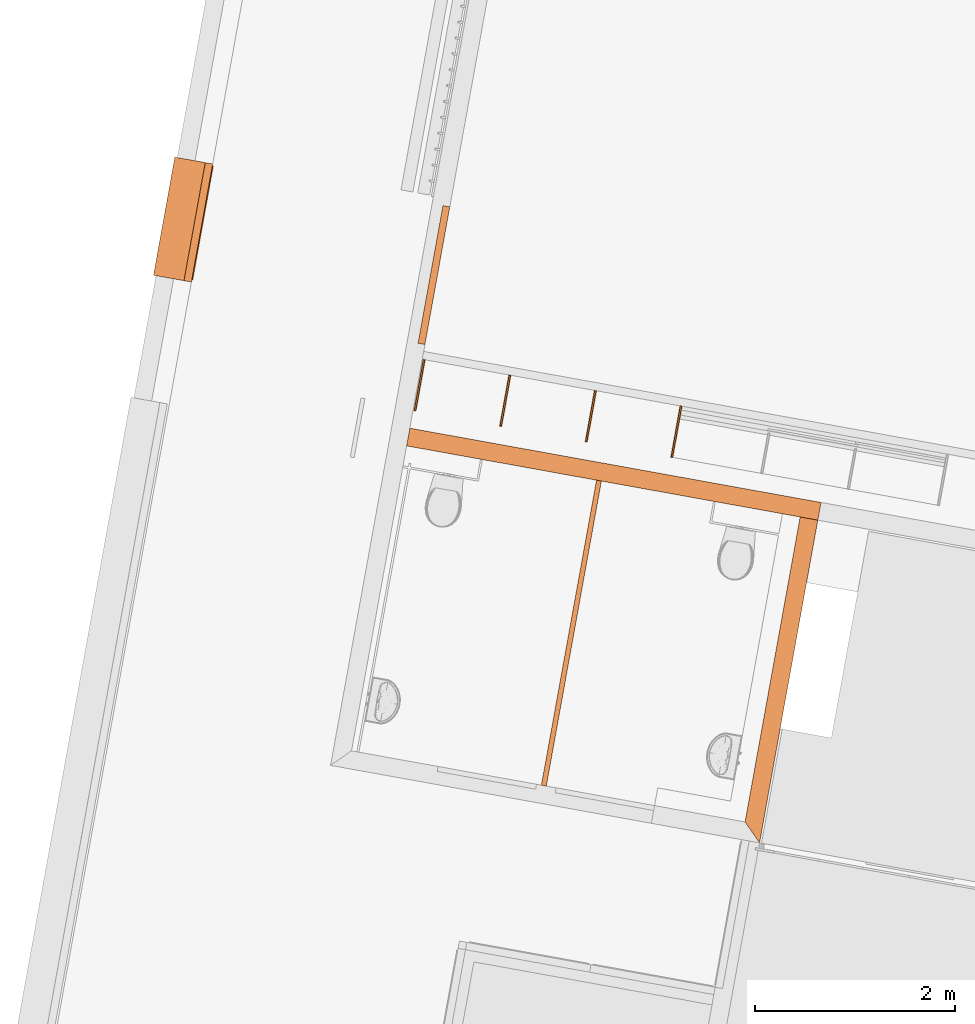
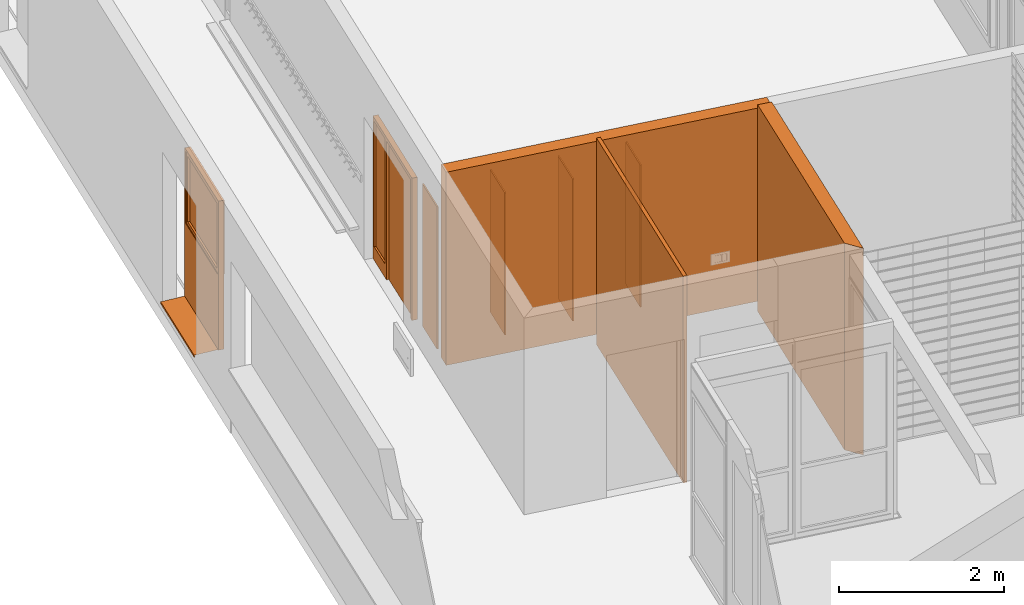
# One storey, part 16 of 52: 9 proxies.
"""IFC2X3 building model written with IfcOpenShell, lengths in metres."""

import ifcopenshell
import ifcopenshell.guid

model = None  # the IFC model being written
_history = None  # IfcOwnerHistory: only IFC2X3 demands one
_inside = {}  # id of a spatial element -> (the spatial element, [elements in it])
_under = {}  # id of a project, library or spatial element -> (it, [spatial elements below it])
_declared = {}  # id of a project -> (the project, [libraries it declares])
_typed = {}  # id of a type object -> (the type object, [elements of that type])
_made_of = {}  # id of a material, layer set ... -> (it, [elements and type objects made of it])


def new_model(schema):
    """Start an empty IFC model of exactly this schema.

    Asked for "IFC4X3", IfcOpenShell would pick the latest addendum, in which some entities
    have other attributes; the version numbers below select the first issue.
    IFC2X3 requires an IfcOwnerHistory on every rooted entity: one is made here for all.
    """
    global model, _history
    if schema == "IFC4X3":
        model = ifcopenshell.file(schema_version=(4, 3, 0, 0))
    else:
        model = ifcopenshell.file(schema=schema)
    _inside.clear()
    _under.clear()
    _declared.clear()
    _typed.clear()
    _made_of.clear()
    _history = None
    if model.schema == "IFC2X3":
        org = make("IfcOrganization", Name="unknown")
        user = make(
            "IfcPersonAndOrganization",
            ThePerson=make("IfcPerson", FamilyName="unknown"),
            TheOrganization=org,
        )
        app = make(
            "IfcApplication",
            ApplicationDeveloper=org,
            Version="unknown",
            ApplicationFullName="unknown",
            ApplicationIdentifier="unknown",
        )
        _history = make(
            "IfcOwnerHistory",
            OwningUser=user,
            OwningApplication=app,
            ChangeAction="ADDED",
            CreationDate=0,
        )
    return model


def make(cls, **values):
    """One entity of the class cls with the attributes given. An attribute that is None is left unset."""
    return model.create_entity(
        cls, **{name: value for name, value in values.items() if value is not None}
    )


def entity(cls, *values):
    """Any entity or typed value of the class cls, its attributes in the order of the schema. None: left unset."""
    e = model.create_entity(cls)
    for i, value in enumerate(values):
        if value is not None:
            e[i] = value
    return e


def rooted(cls, **values):
    """An entity with a GlobalId (a new one), such as an element, a storey or a relation."""
    return make(cls, GlobalId=ifcopenshell.guid.new(), OwnerHistory=_history, **values)


def si_unit(unit_type, name, prefix=None):
    """IfcSIUnit, for example si_unit("LENGTHUNIT", "METRE", prefix="MILLI")."""
    return make("IfcSIUnit", UnitType=unit_type, Prefix=prefix, Name=name)


def converted_unit(unit_type, name, factor, base, dimensions=None, offset=None):
    """IfcConversionBasedUnit, such as the inch: factor (a typed value) times the base unit."""
    return make(
        "IfcConversionBasedUnit"
        if offset is None
        else "IfcConversionBasedUnitWithOffset",
        ConversionOffset=offset,
        Dimensions=None
        if dimensions is None
        else entity("IfcDimensionalExponents", *dimensions),
        UnitType=unit_type,
        Name=name,
        ConversionFactor=make(
            "IfcMeasureWithUnit", ValueComponent=factor, UnitComponent=base
        ),
    )


def derived_unit(unit_type, elements):
    """IfcDerivedUnit: a product of units, each with its exponent."""
    return make(
        "IfcDerivedUnit",
        Elements=[
            make("IfcDerivedUnitElement", Unit=unit, Exponent=power)
            for unit, power in elements
        ],
        UnitType=unit_type,
    )


def money_unit(currency):
    """IfcMonetaryUnit."""
    return make("IfcMonetaryUnit", Currency=currency)


def assignment(units):
    """IfcUnitAssignment: the units of a project."""
    return None if units is None else make("IfcUnitAssignment", Units=units)


def point(xyz):
    """IfcCartesianPoint."""
    return None if xyz is None else make("IfcCartesianPoint", Coordinates=xyz)


def direction(xyz):
    """IfcDirection."""
    return None if xyz is None else make("IfcDirection", DirectionRatios=xyz)


def frame(location, z_axis=None, x_axis=None):
    """IfcAxis2Placement3D, a coordinate frame: its origin and axes. An axis left out is left unset."""
    return make(
        "IfcAxis2Placement3D",
        Location=point(location),
        Axis=direction(z_axis),
        RefDirection=direction(x_axis),
    )


def origin_with_axes():
    """The frame at (0, 0, 0) with the z axis (0, 0, 1) and the x axis (1, 0, 0) written out."""
    return frame((0.0, 0.0, 0.0), z_axis=(0.0, 0.0, 1.0), x_axis=(1.0, 0.0, 0.0))


def place(relative_to, where):
    """IfcLocalPlacement: puts the frame where relative to a parent placement (None: the world)."""
    return make(
        "IfcLocalPlacement", PlacementRelTo=relative_to, RelativePlacement=where
    )


def context(
    kind, dimensions, precision=None, world=None, true_north=None, identifier=None
):
    """IfcGeometricRepresentationContext, for example the 3D "Model" context."""
    return make(
        "IfcGeometricRepresentationContext",
        ContextIdentifier=identifier,
        ContextType=kind,
        CoordinateSpaceDimension=dimensions,
        Precision=precision,
        WorldCoordinateSystem=world,
        TrueNorth=true_north,
    )


def subcontext(parent, identifier, kind, view, scale=None):
    """IfcGeometricRepresentationSubContext, for example "Body" below "Model"."""
    return make(
        "IfcGeometricRepresentationSubContext",
        ContextIdentifier=identifier,
        ContextType=kind,
        ParentContext=parent,
        TargetScale=scale,
        TargetView=view,
    )


def project(units=None, contexts=None):
    """IfcProject with its units and contexts."""
    return rooted(
        "IfcProject",
        Name="project",
        RepresentationContexts=contexts,
        UnitsInContext=assignment(units),
    )


def spatial(cls, under=None, at=None, **own):
    """A site, building, storey or space (cls), placed at a placement, below another one or the project."""
    s = rooted(cls, ObjectPlacement=at, **own)
    if under is not None:
        _under.setdefault(under.id(), (under, []))[1].append(s)
    return s


def polyline(points):
    """IfcPolyline through the points."""
    return make("IfcPolyline", Points=[point(p) for p in points])


def outline(outer, holes=None, kind="AREA"):
    """IfcArbitraryClosedProfileDef: a profile drawn as a closed curve; with holes, ...WithVoids."""
    if holes is None:
        return make("IfcArbitraryClosedProfileDef", ProfileType=kind, OuterCurve=outer)
    return make(
        "IfcArbitraryProfileDefWithVoids",
        ProfileType=kind,
        OuterCurve=outer,
        InnerCurves=holes,
    )


def extrude(swept, where, along, depth):
    """IfcExtrudedAreaSolid: the profile swept, set in the frame where, extruded along a direction by depth."""
    return make(
        "IfcExtrudedAreaSolid",
        SweptArea=swept,
        Position=where,
        ExtrudedDirection=direction(along),
        Depth=depth,
    )


def faces_of(points, faces, orient=None, outer=None):
    """IfcFace entities. A face is a list of loops; a loop is a list of indices into points, from 0.

    orient and outer hold one flag for each loop. By default every Orientation is true, the
    first loop of a face is its IfcFaceOuterBound and the others are IfcFaceBound.
    """
    made = []
    for i, loops in enumerate(faces):
        bounds = []
        for j, loop in enumerate(loops):
            is_outer = j == 0 if outer is None else outer[i][j]
            bounds.append(
                make(
                    "IfcFaceOuterBound" if is_outer else "IfcFaceBound",
                    Bound=make("IfcPolyLoop", Polygon=[points[k] for k in loop]),
                    Orientation=True if orient is None else orient[i][j],
                )
            )
        made.append(make("IfcFace", Bounds=bounds))
    return made


def open_shell(faces, orient=None, outer=None):
    """The faces of one IfcOpenShell. surface_model builds it on its shared points."""
    return ("IfcOpenShell", faces, orient, outer)


def faceted_brep(points, faces, orient=None, outer=None, voids=None):
    """IfcFacetedBrep: a solid bounded by flat faces; with voids (closed shells), ...WithVoids."""
    shared = [point(p) for p in points]
    hull = make("IfcClosedShell", CfsFaces=faces_of(shared, faces, orient, outer))
    if voids is None:
        return make("IfcFacetedBrep", Outer=hull)
    return make(
        "IfcFacetedBrepWithVoids",
        Outer=hull,
        Voids=[
            make(cls, CfsFaces=faces_of(shared, fs, o, b)) for cls, fs, o, b in voids
        ],
    )


def surface_model(cls, points, shells):
    """IfcFaceBasedSurfaceModel or IfcShellBasedSurfaceModel (cls): surfaces that need not close."""
    shared = [point(p) for p in points]
    made = [make(c, CfsFaces=faces_of(shared, fs, o, b)) for c, fs, o, b in shells]
    if cls == "IfcFaceBasedSurfaceModel":
        return make(cls, FbsmFaces=made)
    return make(cls, SbsmBoundary=made)


def shape(context_of_items, identifier, shape_type, items):
    """IfcShapeRepresentation: the items that make up one representation, for example the "Body"."""
    return make(
        "IfcShapeRepresentation",
        ContextOfItems=context_of_items,
        RepresentationIdentifier=identifier,
        RepresentationType=shape_type,
        Items=items,
    )


def source(mapping_origin, context_of_items, identifier, shape_type, items):
    """IfcRepresentationMap: a shape defined once, which mapped items show again and again."""
    return make(
        "IfcRepresentationMap",
        MappingOrigin=mapping_origin,
        MappedRepresentation=shape(context_of_items, identifier, shape_type, items),
    )


def transform(
    local_origin,
    x_axis=None,
    y_axis=None,
    z_axis=None,
    scale=None,
    scale2=None,
    scale3=None,
    uniform=True,
):
    """IfcCartesianTransformationOperator3D, or its non-uniform kind. x_axis, y_axis, z_axis: its Axis1, 2, 3."""
    if uniform:
        return make(
            "IfcCartesianTransformationOperator3D",
            Axis1=direction(x_axis),
            Axis2=direction(y_axis),
            LocalOrigin=point(local_origin),
            Scale=scale,
            Axis3=direction(z_axis),
        )
    return make(
        "IfcCartesianTransformationOperator3DnonUniform",
        Axis1=direction(x_axis),
        Axis2=direction(y_axis),
        LocalOrigin=point(local_origin),
        Scale=scale,
        Axis3=direction(z_axis),
        Scale2=scale2,
        Scale3=scale3,
    )


def mapped(mapping_source, mapping_target):
    """IfcMappedItem: shows the shape of a source again, moved by a transform."""
    return make(
        "IfcMappedItem", MappingSource=mapping_source, MappingTarget=mapping_target
    )


def material(Name=None, Category=None):
    """IfcMaterial."""
    return make("IfcMaterial", Name=Name, Category=Category)


def made_of(thing, what):
    """Note that an element or type object is made of a material, layer set ...; save() writes the relation."""
    if what is not None:
        _made_of.setdefault(what.id(), (what, []))[1].append(thing)
    return thing


def type_object(cls, material=None, **own):
    """A type object (cls), such as IfcWallType, which elements share."""
    return made_of(rooted(cls, **own), material)


def element(
    cls,
    number,
    at=None,
    inside=None,
    cuts=None,
    type_object=None,
    material=None,
    context=None,
    identifier="Body",
    shape_type=None,
    held_by="IfcProductDefinitionShape",
    body=None,
    shapes=None,
    **own,
):
    """One element of the class cls, such as IfcWall. Its Tag is "e" and its number.

    at: its placement. inside: the storey or other place that contains it. cuts: it is an
    opening in that element (IfcRelVoidsElement). A single representation is given by context,
    identifier, shape_type and body (its items); several are given by shapes. held_by: the class
    of the entity that holds the representations. save() writes the other relations.
    """
    e = rooted(cls, Tag="e%d" % number, ObjectPlacement=at, **own)
    if body is not None:
        shapes = [shape(context, identifier, shape_type, body)]
    if shapes is not None:
        e.Representation = make(held_by, Representations=shapes)
    if inside is not None:
        _inside.setdefault(inside.id(), (inside, []))[1].append(e)
    if cuts is not None:
        rooted(
            "IfcRelVoidsElement", RelatingBuildingElement=cuts, RelatedOpeningElement=e
        )
    if type_object is not None:
        _typed.setdefault(type_object.id(), (type_object, []))[1].append(e)
    return made_of(e, material)


def aggregate(whole, parts):
    """IfcRelAggregates: a whole, such as a stair, and the parts it consists of."""
    return rooted("IfcRelAggregates", RelatingObject=whole, RelatedObjects=parts)


def save(model, path):
    """Write the relations noted so far, then the file.

    IfcRelAggregates (storeys below a building ...), IfcRelContainedInSpatialStructure (elements
    in a storey), IfcRelDefinesByType, IfcRelAssociatesMaterial and IfcRelDeclares: one each for
    every whole, place, type object, material and project.
    """
    for whole, parts in _under.values():
        aggregate(whole, parts)
    for where, things in _inside.values():
        rooted(
            "IfcRelContainedInSpatialStructure",
            RelatedElements=things,
            RelatingStructure=where,
        )
    for kind, things in _typed.values():
        rooted("IfcRelDefinesByType", RelatedObjects=things, RelatingType=kind)
    for what, things in _made_of.values():
        rooted("IfcRelAssociatesMaterial", RelatedObjects=things, RelatingMaterial=what)
    for by, libraries in _declared.values():
        rooted("IfcRelDeclares", RelatingContext=by, RelatedDefinitions=libraries)
    model.write(path)


model = new_model("IFC2X3")

# Units and contexts
model_context = context("Model", 3, precision=1e-05, world=origin_with_axes(), true_north=direction((0.0, 1.0)))
body_context = subcontext(model_context, "Body", "Model", "MODEL_VIEW")
ifc_project = project(units=[si_unit("LENGTHUNIT", "METRE"), si_unit("AREAUNIT", "SQUARE_METRE"), si_unit("VOLUMEUNIT", "CUBIC_METRE"), converted_unit("PLANEANGLEUNIT", "DEGREE", entity("IfcPlaneAngleMeasure", 0.0174532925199), si_unit("PLANEANGLEUNIT", "RADIAN"), dimensions=[0, 0, 0, 0, 0, 0, 0]), money_unit("CHF"), converted_unit("TIMEUNIT", "Year", entity("IfcTimeMeasure", 31556926.0), si_unit("TIMEUNIT", "SECOND"), dimensions=[0, 0, 1, 0, 0, 0, 0]), si_unit("MASSUNIT", "GRAM", prefix="KILO"), si_unit("THERMODYNAMICTEMPERATUREUNIT", "DEGREE_CELSIUS"), si_unit("LUMINOUSINTENSITYUNIT", "LUMEN"), si_unit("ENERGYUNIT", "JOULE", prefix="MEGA"), derived_unit("THERMALCONDUCTANCEUNIT", [(si_unit("POWERUNIT", "WATT"), 1), (si_unit("LENGTHUNIT", "METRE"), -1), (si_unit("THERMODYNAMICTEMPERATUREUNIT", "KELVIN"), -1)]), derived_unit("SPECIFICHEATCAPACITYUNIT", [(si_unit("ENERGYUNIT", "JOULE"), 1), (si_unit("MASSUNIT", "GRAM", prefix="KILO"), -1), (si_unit("THERMODYNAMICTEMPERATUREUNIT", "KELVIN"), -1)]), derived_unit("MASSDENSITYUNIT", [(si_unit("MASSUNIT", "GRAM", prefix="KILO"), 1), (si_unit("VOLUMEUNIT", "CUBIC_METRE"), -1)])], contexts=[model_context])

# Site, building, storey
site_placement = place(None, frame((0.0, 0.0, 0.0), z_axis=(0.0, 0.0, 1.0), x_axis=(-0.177771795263, -0.984071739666, 0.0)))
site = spatial("IfcSite", under=ifc_project, at=site_placement, Name="Site", CompositionType="ELEMENT")
building_placement = place(site_placement, origin_with_axes())
building = spatial("IfcBuilding", under=site, at=building_placement, Name="Bâtiment", CompositionType="ELEMENT")
storey_placement = place(building_placement, frame((0.0, 0.0, 3.2), z_axis=(0.0, 0.0, 1.0), x_axis=(1.0, 0.0, 0.0)))
storey = spatial("IfcBuildingStorey", under=building, at=storey_placement, Name="R+1", CompositionType="ELEMENT", Elevation=3.2)

# Proxies
ifc_material_1 = material(Name="_BA banché RAL9007")
building_element_proxy_type_1 = type_object("IfcBuildingElementProxyType", Name="_BA banché RAL9007 180", PredefinedType="NOTDEFINED")
proxy_1_placement = place(storey_placement, frame((138.014841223, -156.627151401, 0.0), z_axis=(0.0, 0.0, 1.0), x_axis=(0.0, 1.0, 0.0)))
element("IfcBuildingElementProxy", 1, at=proxy_1_placement, inside=storey, type_object=building_element_proxy_type_1, material=ifc_material_1, Name="M refend", context=body_context, shape_type="SweptSolid", body=[
    extrude(outline(polyline([(0.18, 0.0), (4.36011604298, 0.0), (4.36011604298, 0.18), (0.18000000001, 0.18), (0.18, 0.0)])), origin_with_axes(), (0.0, 0.0, 1.0), 2.85),
])
ifc_material_2 = material(Name="_panneau mélaminé")
building_element_proxy_type_2 = type_object("IfcBuildingElementProxyType", Name="_panneau mélaminé 19", PredefinedType="NOTDEFINED")
proxy_2_placement = place(storey_placement, frame((137.834841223, -153.816651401, 0.0), z_axis=(0.0, 0.0, 1.0), x_axis=(-1.0, 0.0, 0.0)))
element("IfcBuildingElementProxy", 2, at=proxy_2_placement, inside=storey, type_object=building_element_proxy_type_2, material=ifc_material_2, Name="cloison pl-classe", context=body_context, shape_type="SweptSolid", body=[
    extrude(outline(polyline([(0.18, -0.0095), (0.7, -0.0095), (0.7, 0.0095), (0.18, 0.0095), (0.18, -0.0095)])), origin_with_axes(), (0.0, 0.0, 1.0), 2.1),
])
proxy_3_placement = place(storey_placement, frame((137.834841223, -156.418136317, 0.0), z_axis=(0.0, 0.0, 1.0), x_axis=(-1.0, 0.0, 0.0)))
element("IfcBuildingElementProxy", 3, at=proxy_3_placement, inside=storey, type_object=building_element_proxy_type_2, material=ifc_material_2, Name="cloison pl-classe", context=body_context, shape_type="SweptSolid", body=[
    extrude(outline(polyline([(0.18, 0.0), (0.7, 0.0), (0.7, 0.019), (0.18, 0.019), (0.18, 0.0)])), origin_with_axes(), (0.0, 0.0, 1.0), 2.1),
])
for number, where, z_axis, x_axis, name in (
    (4, (137.654841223, -155.556651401, 0.0), (0.0, 0.0, 1.0), (-1.0, 0.0, 0.0), "cloison pl-classe"),
    (5, (137.654841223, -154.686651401, 0.0), (0.0, 0.0, 1.0), (-1.0, 0.0, 0.0), "cloison pl-classe"),
):
    element("IfcBuildingElementProxy", number, at=place(storey_placement, frame(where, z_axis=z_axis, x_axis=x_axis)), inside=storey, type_object=building_element_proxy_type_2, material=ifc_material_2, Name=name, context=body_context, shape_type="SweptSolid", body=[
        extrude(outline(polyline([(0.0, -0.0095), (0.52, -0.0095), (0.52, 0.0095), (0.0, 0.0095), (0.0, -0.0095)])), origin_with_axes(), (0.0, 0.0, 1.0), 2.1),
    ])
building_element_proxy_type_3 = type_object("IfcBuildingElementProxyType", Name="_M ext 18 +18 360", PredefinedType="NOTDEFINED")
proxy_4_placement = place(storey_placement, frame((138.014841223, -152.267151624, -0.15), z_axis=(0.0, 0.0, 1.0), x_axis=(1.0, 2.02705788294e-07, 0.0)))
element("IfcBuildingElementProxy", 6, at=proxy_4_placement, inside=storey, type_object=building_element_proxy_type_3, material=ifc_material_1, Name="M refend", context=body_context, shape_type="SweptSolid", body=[
    extrude(outline(polyline([(-3.65105847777e-08, -0.18), (3.09999917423, -0.18), (3.27999917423, 0.0), (0.0, 0.0), (-3.65105847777e-08, -0.18)])), origin_with_axes(), (0.0, 0.0, 1.0), 3.05),
])
ifc_material_3 = material(Name="Matériau de construction IFC")
building_element_proxy_type_4 = type_object("IfcBuildingElementProxyType", Name="Porte avec tierce vitrée côté 2 21", PredefinedType="NOTDEFINED")
shared_shape_1 = source(origin_with_axes(), body_context, "Body", "SurfaceModel", [
    faceted_brep([(0.0, 0.18, 0.0), (0.05, 0.18, 0.0), (0.05, 0.11, 0.0), (0.0, 0.11, 0.0), (0.0, 0.18, 2.05), (0.05, 0.18, 2.05), (0.05, 0.18, 0.2), (0.05, 0.11, 0.2), (0.05, 0.11, 2.05), (0.0, 0.11, 2.05)], [[[0, 1, 2, 3]], [[0, 4, 5, 6, 1]], [[1, 6, 7, 2]], [[3, 2, 7, 8, 9]], [[4, 0, 3, 9]], [[5, 4, 9, 8]], [[6, 5, 8, 7]]]),
    faceted_brep([(0.49, 0.14, 0.0), (0.49, 0.14, 2.05), (0.49, 0.11, 2.05), (0.49, 0.11, 0.0), (0.47, 0.14, 2.05), (0.47, 0.14, 0.0), (0.47, 0.18, 2.05), (0.44, 0.18, 2.05), (0.44, 0.11, 2.05), (0.44, 0.11, 0.0), (0.44, 0.11, 0.2), (0.44, 0.18, 0.0), (0.47, 0.18, 0.0), (0.44, 0.18, 0.2)], [[[0, 1, 2, 3]], [[4, 1, 0, 5]], [[4, 6, 7, 8, 2, 1]], [[9, 3, 2, 8, 10]], [[5, 0, 3, 9, 11, 12]], [[6, 4, 5, 12]], [[6, 12, 11, 13, 7]], [[13, 10, 8, 7]], [[11, 9, 10, 13]]]),
    faceted_brep([(0.05, 0.18, 0.2), (0.05, 0.18, 0.0), (0.05, 0.11, 0.0), (0.05, 0.11, 0.2), (0.44, 0.18, 0.2), (0.44, 0.18, 0.0), (0.44, 0.11, 0.0), (0.44, 0.11, 0.2)], [[[0, 1, 2, 3]], [[0, 4, 5, 1]], [[1, 5, 6, 2]], [[3, 2, 6, 7]], [[4, 0, 3, 7]], [[5, 4, 7, 6]]]),
    faceted_brep([(1.37, 0.14, 2.05), (1.35, 0.14, 2.05), (1.35, 0.11, 2.05), (1.4, 0.11, 2.05), (1.4, 0.18, 2.05), (1.37, 0.18, 2.05), (1.37, 0.14, 0.0), (1.35, 0.14, 0.0), (1.35, 0.11, 0.0), (1.4, 0.11, 0.0), (1.4, 0.18, 0.0), (1.37, 0.18, 0.0)], [[[0, 1, 2, 3, 4, 5]], [[1, 0, 6, 7]], [[1, 7, 8, 2]], [[3, 2, 8, 9]], [[4, 3, 9, 10]], [[11, 5, 4, 10]], [[0, 5, 11, 6]], [[6, 11, 10, 9, 8, 7]]]),
    faceted_brep([(0.47, 0.18, 2.07), (0.47, 0.18, 2.05), (0.44, 0.18, 2.05), (0.05, 0.18, 2.05), (0.0, 0.18, 2.05), (0.0, 0.18, 2.1), (1.4, 0.18, 2.1), (1.4, 0.18, 2.05), (1.37, 0.18, 2.05), (1.37, 0.18, 2.07), (0.47, 0.14, 2.07), (0.47, 0.14, 2.05), (1.35, 0.14, 2.05), (1.35, 0.11, 2.05), (0.49, 0.11, 2.05), (0.44, 0.11, 2.05), (0.05, 0.11, 2.05), (0.0, 0.11, 2.05), (0.0, 0.11, 2.1), (1.4, 0.11, 2.1), (1.4, 0.11, 2.05), (1.37, 0.14, 2.05), (1.37, 0.14, 2.07)], [[[0, 1, 2, 3, 4, 5, 6, 7, 8, 9]], [[1, 0, 10, 11]], [[11, 12, 13, 14, 15, 2, 1]], [[2, 15, 16, 3]], [[3, 16, 17, 4]], [[4, 17, 18, 5]], [[5, 18, 19, 6]], [[6, 19, 20, 7]], [[21, 8, 7, 20, 13, 12]], [[9, 8, 21, 22]], [[0, 9, 22, 10]], [[21, 12, 11, 10, 22]], [[13, 20, 19, 18, 17, 16, 15, 14]]]),
    faceted_brep([(1.37, 0.18, 0.0), (1.37, 0.14, 0.0), (0.47, 0.14, 0.0), (0.47, 0.18, 0.0), (1.37, 0.18, 2.07), (1.37, 0.14, 2.07), (0.47, 0.14, 2.07), (0.47, 0.18, 2.07)], [[[0, 1, 2, 3]], [[4, 5, 1, 0]], [[1, 5, 6, 2]], [[3, 2, 6, 7]], [[0, 3, 7, 4]], [[7, 6, 5, 4]]]),
    surface_model("IfcShellBasedSurfaceModel", [(0.05, 0.145, 0.2), (0.05, 0.145, 2.05), (0.44, 0.145, 2.05), (0.44, 0.145, 0.2)], [open_shell([[[0, 1, 2, 3]]])]),
    surface_model("IfcShellBasedSurfaceModel", [(0.05, 0.135, 0.2), (0.44, 0.135, 0.2), (0.44, 0.135, 2.05), (0.05, 0.135, 2.05)], [open_shell([[[0, 1, 2, 3]]])]),
])
proxy_5_placement = place(storey_placement, frame((135.584841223, -156.627151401, 0.0), z_axis=(0.0, 0.0, 1.0), x_axis=(1.0, 0.0, 0.0)))
element("IfcBuildingElementProxy", 7, at=proxy_5_placement, inside=storey, type_object=building_element_proxy_type_4, material=ifc_material_3, Name="16", context=body_context, shape_type="MappedRepresentation", body=[
    mapped(shared_shape_1, transform((0.0, 0.0, 0.0))),
])
ifc_material_4 = material(Name="_Cloison")
building_element_proxy_type_5 = type_object("IfcBuildingElementProxyType", Name="_Cloison 50", PredefinedType="NOTDEFINED")
proxy_6_placement = place(storey_placement, frame((138.014841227, -154.467151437, -0.15), z_axis=(0.0, 0.0, 1.0), x_axis=(1.0, 4.23886328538e-07, 0.0)))
element("IfcBuildingElementProxy", 8, at=proxy_6_placement, inside=storey, type_object=building_element_proxy_type_5, material=ifc_material_4, Name="cloison-WC-R+1", context=body_context, shape_type="SweptSolid", body=[
    extrude(outline(polyline([(-2.52483687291e-08, -0.05), (3.09999960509, -0.05), (3.09999961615, 0.0), (-4.05404421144e-09, 0.0), (-2.52483687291e-08, -0.05)])), origin_with_axes(), (0.0, 0.0, 1.0), 3.05),
])
building_element_proxy_type_6 = type_object("IfcBuildingElementProxyType", Name="Fenêtre variable 21", PredefinedType="NOTDEFINED")
shared_shape_2 = source(origin_with_axes(), body_context, "Body", "SurfaceModel", [
    surface_model("IfcShellBasedSurfaceModel", [(1.2, 0.284, 0.02), (0.0, 0.284, 0.02), (0.0, 0.284, 0.01), (1.2, 0.284, 0.01), (0.0, -0.025, -0.00087719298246), (1.2, -0.025, -0.00087719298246), (0.0, -0.025, -0.0308771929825), (1.2, -0.025, -0.0308771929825), (0.0, -0.0125, -0.0183771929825), (1.2, -0.0125, -0.0183771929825)], [open_shell([[[0, 1, 2, 3]], [[3, 2, 4, 5]], [[5, 4, 6, 7]], [[7, 6, 8, 9]]])]),
    faceted_brep([(1.18, 0.36, 2.169), (1.18, 0.295, 2.169), (1.17, 0.295, 2.169), (1.17, 0.285, 2.169), (1.2, 0.285, 2.169), (1.2, 0.36, 2.169), (1.18, 0.36, 1.095), (1.18, 0.295, 1.095), (1.17, 0.295, 1.105), (1.17, 0.295, 1.095), (1.17, 0.285, 1.105), (1.17, 0.285, 1.055), (1.17, 0.285, 0.05), (1.2, 0.285, 0.05), (1.2, 0.36, 0.05), (1.17, 0.36, 0.05), (1.17, 0.36, 1.055), (1.17, 0.36, 1.095)], [[[0, 1, 2, 3, 4, 5]], [[1, 0, 6, 7]], [[8, 2, 1, 7, 9]], [[2, 8, 10, 3]], [[10, 11, 12, 13, 4, 3]], [[5, 4, 13, 14]], [[6, 0, 5, 14, 15, 16, 17]], [[6, 17, 9, 7]], [[9, 17, 16, 11, 10, 8]], [[15, 12, 11, 16]], [[14, 13, 12, 15]]]),
    faceted_brep([(0.03, 0.295, 2.169), (0.02, 0.295, 2.169), (0.02, 0.36, 2.169), (0.0, 0.36, 2.169), (0.0, 0.285, 2.169), (0.03, 0.285, 2.169), (0.03, 0.295, 1.105), (0.03, 0.295, 1.095), (0.02, 0.295, 1.095), (0.02, 0.36, 1.095), (0.03, 0.36, 1.095), (0.03, 0.36, 1.055), (0.03, 0.36, 0.05), (0.0, 0.36, 0.05), (0.0, 0.285, 0.05), (0.03, 0.285, 0.05), (0.03, 0.285, 1.055), (0.03, 0.285, 1.105)], [[[0, 1, 2, 3, 4, 5]], [[1, 0, 6, 7, 8]], [[9, 2, 1, 8]], [[9, 10, 11, 12, 13, 3, 2]], [[13, 14, 4, 3]], [[14, 15, 16, 17, 5, 4]], [[6, 0, 5, 17]], [[7, 6, 17, 16, 11, 10]], [[10, 9, 8, 7]], [[11, 16, 15, 12]], [[12, 15, 14, 13]]]),
    faceted_brep([(1.17, 0.295, 1.105), (0.03, 0.295, 1.105), (0.03, 0.285, 1.105), (1.17, 0.285, 1.105), (0.03, 0.295, 1.095), (1.17, 0.295, 1.095), (0.03, 0.36, 1.095), (0.03, 0.36, 1.055), (0.03, 0.285, 1.055), (1.17, 0.285, 1.055), (1.17, 0.36, 1.055), (1.17, 0.36, 1.095)], [[[0, 1, 2, 3]], [[4, 1, 0, 5]], [[4, 6, 7, 8, 2, 1]], [[8, 9, 3, 2]], [[5, 0, 3, 9, 10, 11]], [[11, 6, 4, 5]], [[6, 11, 10, 7]], [[10, 9, 8, 7]]]),
    faceted_brep([(1.18, 0.36, 2.169), (1.18, 0.36, 2.179), (0.02, 0.36, 2.179), (0.02, 0.36, 2.169), (0.0, 0.36, 2.169), (0.0, 0.36, 2.199), (1.2, 0.36, 2.199), (1.2, 0.36, 2.169), (1.18, 0.295, 2.169), (1.18, 0.295, 2.179), (0.02, 0.295, 2.179), (0.02, 0.295, 2.169), (0.03, 0.295, 2.169), (0.03, 0.285, 2.169), (0.0, 0.285, 2.169), (0.0, 0.285, 2.199), (1.2, 0.285, 2.199), (1.2, 0.285, 2.169), (1.17, 0.285, 2.169), (1.17, 0.295, 2.169)], [[[0, 1, 2, 3, 4, 5, 6, 7]], [[1, 0, 8, 9]], [[2, 1, 9, 10]], [[3, 2, 10, 11]], [[11, 12, 13, 14, 4, 3]], [[4, 14, 15, 5]], [[5, 15, 16, 6]], [[6, 16, 17, 7]], [[8, 0, 7, 17, 18, 19]], [[12, 11, 10, 9, 8, 19]], [[12, 19, 18, 13]], [[14, 13, 18, 17, 16, 15]]]),
    faceted_brep([(1.17, 0.285, 0.05), (1.2, 0.285, 0.05), (1.2, 0.36, 0.05), (1.17, 0.36, 0.05), (0.03, 0.285, 0.05), (0.0, 0.285, 0.05), (0.0, 0.285, 0.0), (1.2, 0.285, 0.0), (1.2, 0.36, 0.0), (0.0, 0.36, 0.0), (0.0, 0.36, 0.05), (0.03, 0.36, 0.05)], [[[0, 1, 2, 3]], [[0, 4, 5, 6, 7, 1]], [[1, 7, 8, 2]], [[3, 2, 8, 9, 10, 11]], [[4, 0, 3, 11]], [[5, 4, 11, 10]], [[6, 5, 10, 9]], [[7, 6, 9, 8]]]),
    faceted_brep([(1.12, 0.295, 2.119), (1.18, 0.295, 2.119), (1.18, 0.37, 2.119), (1.12, 0.37, 2.119), (1.12, 0.295, 1.155), (1.18, 0.295, 1.155), (1.18, 0.37, 1.155), (1.12, 0.37, 1.155)], [[[0, 1, 2, 3]], [[0, 4, 5, 1]], [[1, 5, 6, 2]], [[3, 2, 6, 7]], [[4, 0, 3, 7]], [[5, 4, 7, 6]]]),
    faceted_brep([(0.08, 0.295, 1.155), (0.02, 0.295, 1.155), (0.02, 0.37, 1.155), (0.08, 0.37, 1.155), (0.08, 0.295, 2.119), (0.02, 0.295, 2.119), (0.02, 0.37, 2.119), (0.08, 0.37, 2.119)], [[[0, 1, 2, 3]], [[0, 4, 5, 1]], [[1, 5, 6, 2]], [[3, 2, 6, 7]], [[4, 0, 3, 7]], [[5, 4, 7, 6]]]),
    faceted_brep([(0.02, 0.295, 1.095), (0.02, 0.295, 1.155), (0.02, 0.37, 1.155), (0.02, 0.37, 1.095), (1.18, 0.295, 1.095), (1.18, 0.295, 1.155), (1.12, 0.295, 1.155), (0.08, 0.295, 1.155), (0.08, 0.37, 1.155), (1.12, 0.37, 1.155), (1.18, 0.37, 1.155), (1.18, 0.37, 1.095)], [[[0, 1, 2, 3]], [[0, 4, 5, 6, 7, 1]], [[1, 7, 8, 2]], [[3, 2, 8, 9, 10, 11]], [[4, 0, 3, 11]], [[5, 4, 11, 10]], [[6, 5, 10, 9]], [[7, 6, 9, 8]]]),
    faceted_brep([(1.18, 0.295, 2.179), (1.18, 0.295, 2.119), (1.18, 0.37, 2.119), (1.18, 0.37, 2.179), (0.02, 0.295, 2.179), (0.02, 0.295, 2.119), (0.08, 0.295, 2.119), (1.12, 0.295, 2.119), (1.12, 0.37, 2.119), (0.08, 0.37, 2.119), (0.02, 0.37, 2.119), (0.02, 0.37, 2.179)], [[[0, 1, 2, 3]], [[0, 4, 5, 6, 7, 1]], [[1, 7, 8, 2]], [[3, 2, 8, 9, 10, 11]], [[4, 0, 3, 11]], [[5, 4, 11, 10]], [[6, 5, 10, 9]], [[7, 6, 9, 8]]]),
    surface_model("IfcShellBasedSurfaceModel", [(1.12, 0.3225, 1.155), (1.12, 0.3225, 2.119), (0.08, 0.3225, 2.119), (0.08, 0.3225, 1.155)], [open_shell([[[0, 1, 2, 3]]])]),
    surface_model("IfcShellBasedSurfaceModel", [(1.12, 0.3425, 1.155), (0.08, 0.3425, 1.155), (0.08, 0.3425, 2.119), (1.12, 0.3425, 2.119)], [open_shell([[[0, 1, 2, 3]]])]),
    surface_model("IfcShellBasedSurfaceModel", [(1.17, 0.285, 0.05), (1.17, 0.285, 1.055), (0.03, 0.285, 1.055), (0.03, 0.285, 0.05)], [open_shell([[[0, 1, 2, 3]]])]),
    surface_model("IfcShellBasedSurfaceModel", [(1.17, 0.305, 0.05), (0.03, 0.305, 0.05), (0.03, 0.305, 1.055), (1.17, 0.305, 1.055)], [open_shell([[[0, 1, 2, 3]]])]),
])
proxy_7_placement = place(storey_placement, frame((135.584841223, -159.217107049, 0.001), z_axis=(0.0, 0.0, 1.0), x_axis=(1.0, 0.0, 0.0)))
element("IfcBuildingElementProxy", 9, at=proxy_7_placement, inside=storey, type_object=building_element_proxy_type_6, material=ifc_material_3, Name="Fen couloir", context=body_context, shape_type="MappedRepresentation", body=[
    mapped(shared_shape_2, transform((0.0, 0.0, 0.0))),
])

save(model, "model.ifc")
